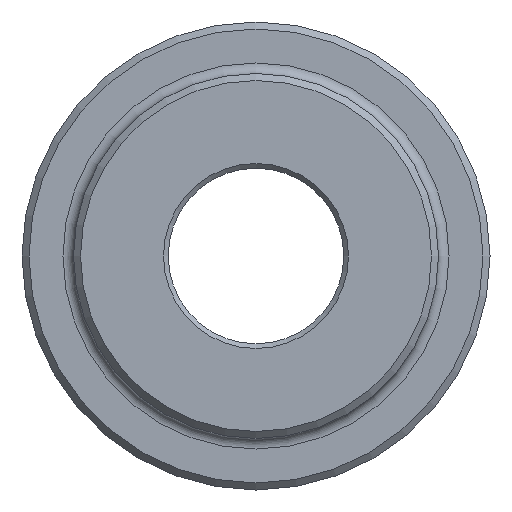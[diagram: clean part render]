
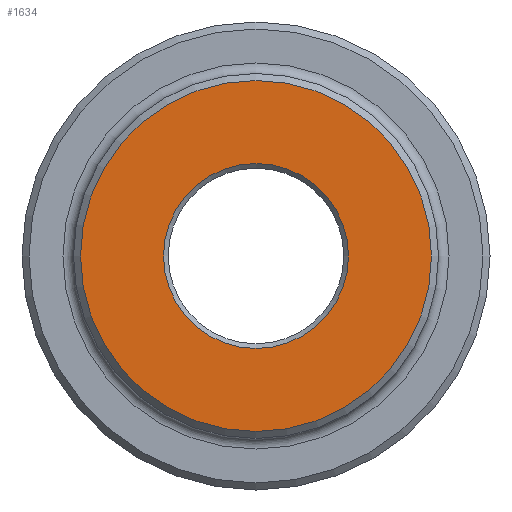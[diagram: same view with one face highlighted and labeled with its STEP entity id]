
A CAD part, left-side view. The second image highlights one B-rep face of the part: STEP entity #1634.
In plain terms, the highlighted planar face has unit normal (-1, 0, 0).
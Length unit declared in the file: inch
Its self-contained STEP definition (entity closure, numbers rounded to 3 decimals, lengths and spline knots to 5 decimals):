
#30 = CIRCLE ( 'NONE', #605, 1.5 ) ;
#50 = PLANE ( 'NONE',  #173 ) ;
#140 = EDGE_CURVE ( 'NONE', #1339, #1339, #30, .T. ) ;
#173 = AXIS2_PLACEMENT_3D ( 'NONE', #259, #490, #1009 ) ;
#175 = CARTESIAN_POINT ( 'NONE',  ( 0., 0., 0. ) ) ;
#259 = CARTESIAN_POINT ( 'NONE',  ( 0., 0., 0. ) ) ;
#347 = DIRECTION ( 'NONE',  ( 0., 0., -1. ) ) ;
#359 = DIRECTION ( 'NONE',  ( 1., 0., 0. ) ) ;
#459 = CARTESIAN_POINT ( 'NONE',  ( 0., 0., -0.79025 ) ) ;
#475 = EDGE_CURVE ( 'NONE', #861, #861, #691, .T. ) ;
#490 = DIRECTION ( 'NONE',  ( 1., 0., 0. ) ) ;
#605 = AXIS2_PLACEMENT_3D ( 'NONE', #175, #1108, #347 ) ;
#662 = ORIENTED_EDGE ( 'NONE', *, *, #140, .T. ) ;
#683 = EDGE_LOOP ( 'NONE', ( #662 ) ) ;
#691 = CIRCLE ( 'NONE', #1741, 0.79025 ) ;
#762 = CARTESIAN_POINT ( 'NONE',  ( 0., 0., -1.5 ) ) ;
#861 = VERTEX_POINT ( 'NONE', #459 ) ;
#1009 = DIRECTION ( 'NONE',  ( 0., 0., -1. ) ) ;
#1062 = CARTESIAN_POINT ( 'NONE',  ( 0., 0., 0. ) ) ;
#1063 = ORIENTED_EDGE ( 'NONE', *, *, #475, .T. ) ;
#1108 = DIRECTION ( 'NONE',  ( -1., 0., 0. ) ) ;
#1339 = VERTEX_POINT ( 'NONE', #762 ) ;
#1415 = EDGE_LOOP ( 'NONE', ( #1063 ) ) ;
#1465 = FACE_BOUND ( 'NONE', #1415, .T. ) ;
#1479 = DIRECTION ( 'NONE',  ( 0., 0., -1. ) ) ;
#1634 = ADVANCED_FACE ( 'NONE', ( #1465, #1681 ), #50, .F. ) ;
#1681 = FACE_OUTER_BOUND ( 'NONE', #683, .T. ) ;
#1741 = AXIS2_PLACEMENT_3D ( 'NONE', #1062, #359, #1479 ) ;
